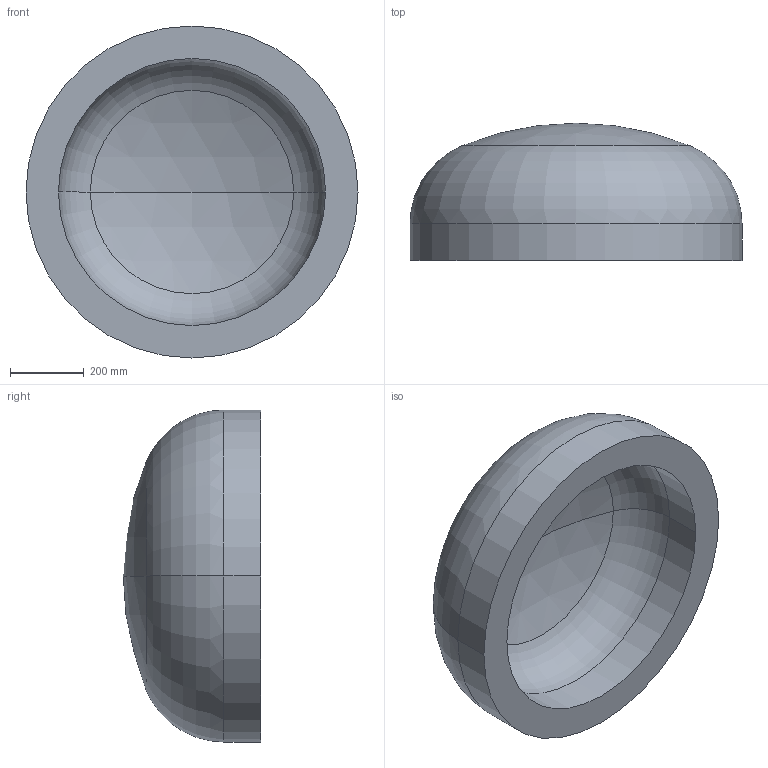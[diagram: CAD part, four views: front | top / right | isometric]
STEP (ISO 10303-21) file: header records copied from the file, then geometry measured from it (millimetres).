
FILE_DESCRIPTION (( 'STEP AP203' ), '1' );
FILE_NAME ('DIN 28013 Korbbogenform_-_Boden DIN 28013 - 900 x 100 - I - s=88.step', '2016-07-01T08:37:16', ( '' ), ( '' ), 'SwSTEP 2.0', 'SolidWorks 2013', '' );
FILE_SCHEMA (( 'CONFIG_CONTROL_DESIGN' ));
Length unit declared in the file: millimetre
Products named in the file (1): DIN 28013 Korbbogenform_-_Boden DIN 28013 - 900 x 100 - I - s=88
Bounding box: 900 x 372.17 x 900 mm (x, y, z)
Volume: 91282776.2 mm3; surface area: 2315312.9 mm2
Topology: 1 solids, 1 shells, 13 faces, 24 edges, 14 vertices
Faces by surface type: torus 4, cylinder 4, sphere 4, plane 1
Entity records: 407 total; most frequent: DIRECTION 72, CARTESIAN_POINT 52, ORIENTED_EDGE 48, AXIS2_PLACEMENT_3D 34, EDGE_CURVE 24, CIRCLE 20, VERTEX_POINT 14, EDGE_LOOP 14
